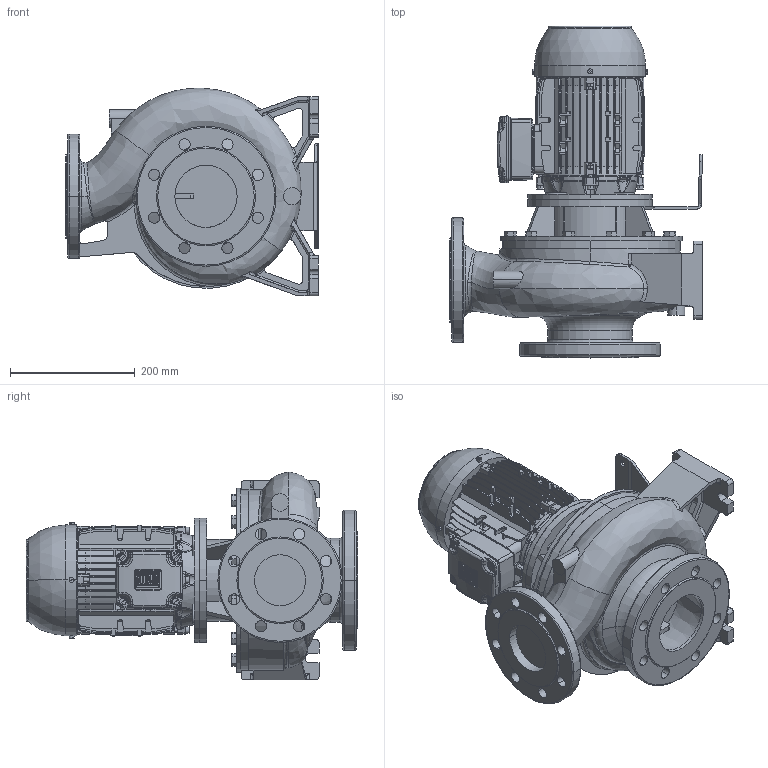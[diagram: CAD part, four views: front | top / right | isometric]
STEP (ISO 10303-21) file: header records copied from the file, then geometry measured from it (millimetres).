
FILE_DESCRIPTION (( 'STEP AP214' ), '1' );
FILE_NAME ('3LS4 80-160_1.5_(90SL)_W21.STEP', '2026-10-05T01:34:51', ( '' ), ( '' ), 'SwSTEP 2.0', 'SolidWorks 2024', '' );
FILE_SCHEMA (( 'AUTOMOTIVE_DESIGN' ));
Length unit declared in the file: inch
Products named in the file (3): 90S_L ALIE3_W21T_B5; 3LS4 80-160_1.5_(90SL)_W21; 3SF4_80-160_1_5
Assembly tree (2 placements, depth 2):
  3LS4 80-160_1.5_(90SL)_W21
    3SF4_80-160_1_5
    90S_L ALIE3_W21T_B5
Bounding box: 405 x 533 x 333.69 mm (x, y, z)
Volume: 16814150.4 mm3; surface area: 1338900.5 mm2
Topology: 4 solids, 8 shells, 2889 faces, 7652 edges, 4940 vertices
Faces by surface type: plane 1723, cylinder 626, bspline 267, torus 136, cone 103, sphere 34
Entity records: 157973 total; most frequent: CARTESIAN_POINT 89143, ORIENTED_EDGE 15220, DIRECTION 12858, EDGE_CURVE 7610, VERTEX_POINT 4932, VECTOR 4730, LINE 4730, AXIS2_PLACEMENT_3D 4064
